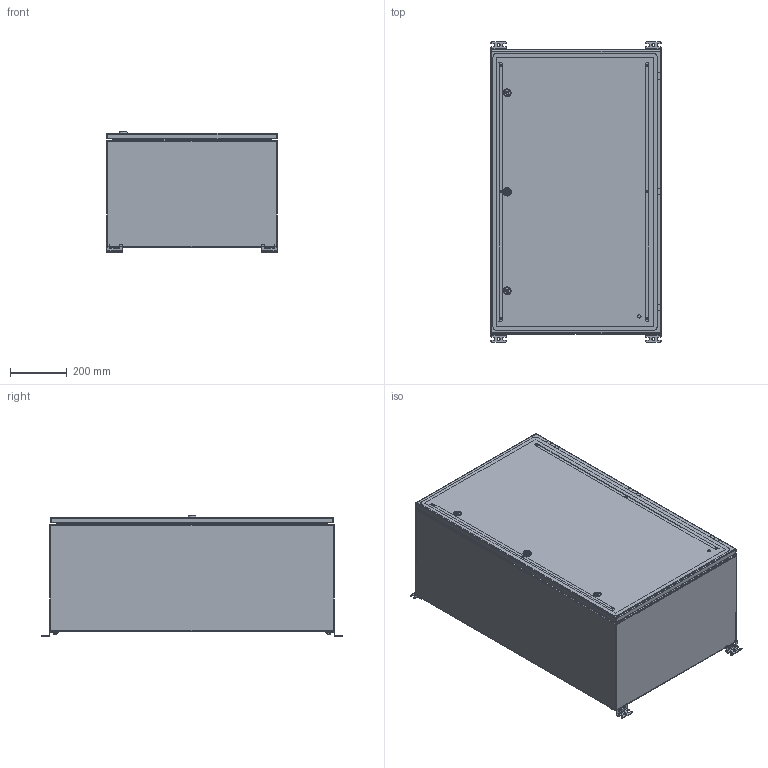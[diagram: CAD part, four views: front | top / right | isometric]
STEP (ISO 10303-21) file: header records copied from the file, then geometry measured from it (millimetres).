
FILE_DESCRIPTION(('STEP AP242'), '1');
FILE_NAME('400 ﾙﾌﾏ-1 (IP-56)', '', ('UNSPECIFIED'), ('UNSPECIFIED'), 'C3D Converter', 'C3D Toolkit', '');
FILE_SCHEMA(('AP242_MANAGED_MODEL_BASED_3D_ENGINEERING_MIM_LF { 1 0 10303 442 1 1 4 }'));
Length unit declared in the file: millimetre
Products named in the file (44): ЩМП-1 СБ; 410; 420; 421; 411; 412; 490; 491; 401; 440; 441; 402
Assembly tree (108 placements, depth 4):
  ЩМП-1 СБ
    410
      420
        421
        (unnamed)  x6
        (unnamed)
      411
      412
    490  x2
      491
      (unnamed)
      (unnamed)
      (unnamed)
      (unnamed)
      (unnamed)
    490  x2
      491
      (unnamed)
      (unnamed)
      (unnamed)
      (unnamed)
      (unnamed)
    401
    (unnamed)  x6
    (unnamed)  x6
    (unnamed)  x6
    (unnamed)  x3
      (unnamed)
      (unnamed)
      (unnamed)
    (unnamed)  x6
    440
      441
      (unnamed)
      (unnamed)  x6
      (unnamed)  x2
      (unnamed)  x3
    402  x2
    (unnamed)  x6
    (unnamed)  x6
    (unnamed)  x2
    (unnamed)
      (unnamed)
      (unnamed)
      (unnamed)
      (unnamed)
      (unnamed)
    (unnamed)
    (unnamed)  x2
      (unnamed)
      (unnamed)
      (unnamed)
    (unnamed)  x2
    (unnamed)  x2
Bounding box: 600 x 1056 x 423.1 mm (x, y, z)
Volume: 5524083 mm3; surface area: 6702886.6 mm2
Topology: 121 solids, 123 shells, 2480 faces, 5792 edges, 3621 vertices
Faces by surface type: plane 1314, cylinder 765, cone 219, torus 72, bspline 70, sphere 40
Full cylindrical faces by diameter (mm): 0.5 x6, 2.6 x4, 3.5 x136, 4 x4, 4.134 x2, 4.2 x6, 4.85 x2, 4.917 x6, 5 x15, 5.5 x8, 5.8 x1, 6 x23, 6.4 x6, 6.5 x4, 6.647 x10, 7 x9, 7.3 x6, 7.5 x9, 7.9 x4, 8 x17, 8.3 x2, 8.4 x10, 8.5 x20, 9 x10, 10 x14, 10.4 x1, 10.5 x5, 11 x14, 11.4 x1, 11.5 x6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
Entity records: 78731 total; most frequent: CARTESIAN_POINT 42529, DIRECTION 5936, ORIENTED_EDGE 5664, EDGE_CURVE 2832, AXIS2_PLACEMENT_3D 2277, VERTEX_POINT 1904, EDGE_LOOP 1776, LINE 1382
